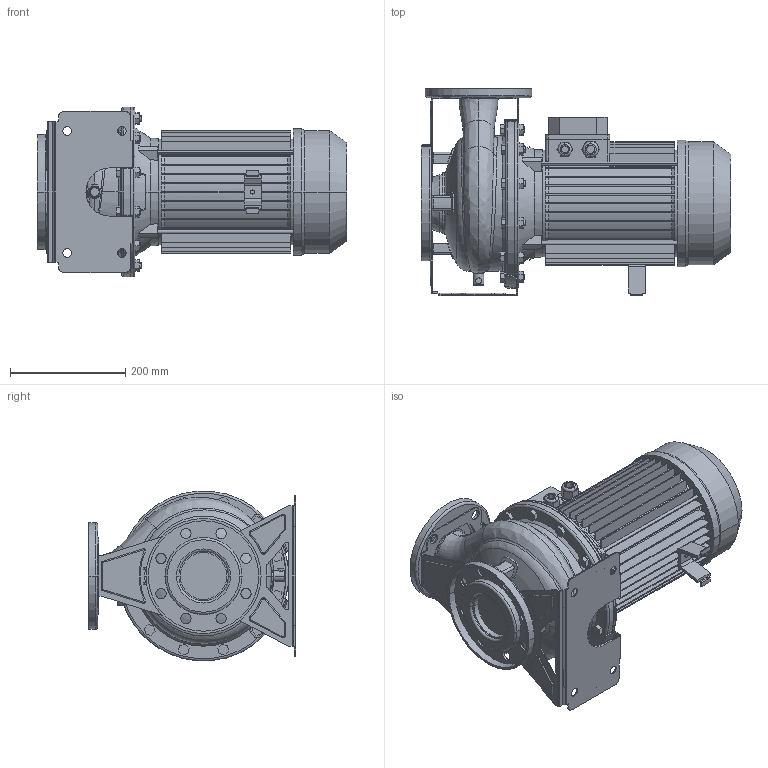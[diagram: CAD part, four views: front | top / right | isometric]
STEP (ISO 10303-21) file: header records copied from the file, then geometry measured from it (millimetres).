
FILE_DESCRIPTION((''),'2;1');
FILE_NAME('3M_65-160_7_5_IE2_ASM','2011-04-22T',('Utente'),('"Ebara Pumps Europe +39.444.706811"'),'PRO/ENGINEER BY PARAMETRIC TECHNOLOGY CORPORATION, 2009360','PRO/ENGINEER BY PARAMETRIC TECHNOLOGY CORPORATION, 2009360','');
FILE_SCHEMA(('AUTOMOTIVE_DESIGN { 1 0 10303 214 1 1 1 1 }'));
Length unit declared in the file: millimetre
Products named in the file (11): CORPO_65-160; ASP_65-160; FLANGIA_DIN_80_8_FORI; MAND_65-160; FLANGIA_DIN_65; BASE_3M_65-160; CORPO_SALDATO_65-160_ASM; SUPPORTO_3M_230_112; MEC_112X160_180_IE2; SOSTEGNO_72008; 3M_65-160_7_5_IE2_ASM
Assembly tree (10 placements, depth 3):
  3M_65-160_7_5_IE2_ASM
    CORPO_SALDATO_65-160_ASM
      CORPO_65-160
      ASP_65-160
      FLANGIA_DIN_80_8_FORI
      MAND_65-160
      FLANGIA_DIN_65
      BASE_3M_65-160
    SUPPORTO_3M_230_112
    MEC_112X160_180_IE2
    SOSTEGNO_72008
Bounding box: 539 x 360 x 295.13 mm (x, y, z)
Volume: 12916579.4 mm3; surface area: 1581080.8 mm2
Topology: 12 solids, 12 shells, 1138 faces, 2895 edges, 1852 vertices
Faces by surface type: plane 615, cylinder 326, cone 96, torus 62, bspline 33, sphere 6
Entity records: 44514 total; most frequent: CARTESIAN_POINT 10207, DIRECTION 5926, ORIENTED_EDGE 5790, EDGE_CURVE 2895, AXIS2_PLACEMENT_3D 2144, VERTEX_POINT 1852, VECTOR 1638, LINE 1638
